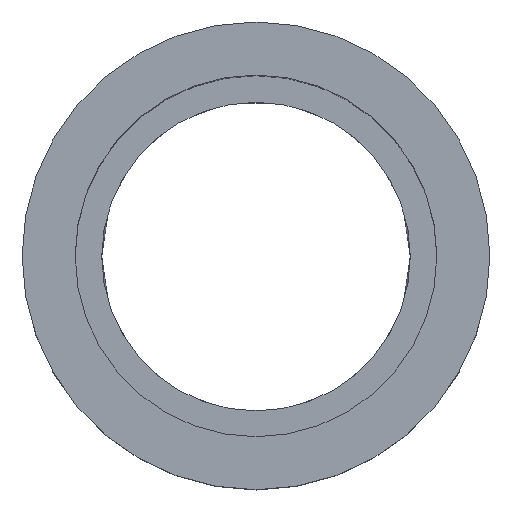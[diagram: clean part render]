
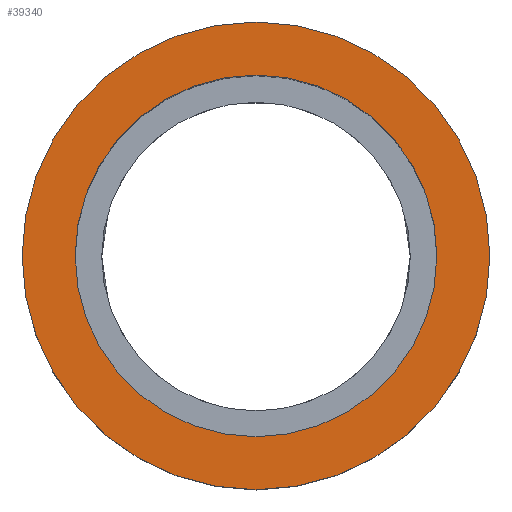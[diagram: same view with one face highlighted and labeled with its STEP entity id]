
A CAD part, top view. The second image highlights one B-rep face of the part: STEP entity #39340.
In plain terms, the highlighted planar face has unit normal (0, 0, 1) as drawn and (-1, 0, 0) by its records, which use the part's own axes.
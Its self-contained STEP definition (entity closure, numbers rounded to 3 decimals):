
#38560=CARTESIAN_POINT('',(-58.851,-18.35,
0.));
#38570=VERTEX_POINT('',#38560);
#38600=CARTESIAN_POINT('',(-58.851,-40.,0.));
#38610=DIRECTION('',(1.,0.,0.));
#38620=DIRECTION('',(0.,-1.,0.));
#38630=AXIS2_PLACEMENT_3D('',#38600,#38610,#38620);
#38640=CIRCLE('',#38630,21.65);
#38650=CARTESIAN_POINT('',(-58.851,-61.65,
0.));
#38660=VERTEX_POINT('',#38650);
#38670=EDGE_CURVE('',#38570,#38660,#38640,.T.);
#39050=CARTESIAN_POINT('',(-58.851,-66.575,
0.));
#39060=DIRECTION('',(1.,-0.,0.));
#39070=DIRECTION('',(0.,1.,0.));
#39080=AXIS2_PLACEMENT_3D('',#39050,#39060,#39070);
#39090=PLANE('',#39080);
#39100=EDGE_CURVE('',#38660,#38570,#38640,.T.);
#39110=ORIENTED_EDGE('',*,*,#39100,.T.);
#39120=ORIENTED_EDGE('',*,*,#38670,.T.);
#39130=EDGE_LOOP('',(#39120,#39110));
#39140=FACE_BOUND('',#39130,.T.);
#39150=CARTESIAN_POINT('',(-58.851,-40.,0.));
#39160=DIRECTION('',(1.,0.,0.));
#39170=DIRECTION('',(0.,1.,0.));
#39180=AXIS2_PLACEMENT_3D('',#39150,#39160,#39170);
#39190=CIRCLE('',#39180,28.);
#39200=CARTESIAN_POINT('',(-58.851,-40.,-28.));
#39210=VERTEX_POINT('',#39200);
#39220=CARTESIAN_POINT('',(-58.851,-12.,0.)
);
#39230=VERTEX_POINT('',#39220);
#39240=EDGE_CURVE('',#39210,#39230,#39190,.T.);
#39250=ORIENTED_EDGE('',*,*,#39240,.F.);
#39260=CARTESIAN_POINT('',(-58.851,-68.,0.)
);
#39270=VERTEX_POINT('',#39260);
#39280=EDGE_CURVE('',#39230,#39270,#39190,.T.);
#39290=ORIENTED_EDGE('',*,*,#39280,.F.);
#39300=EDGE_CURVE('',#39270,#39210,#39190,.T.);
#39310=ORIENTED_EDGE('',*,*,#39300,.F.);
#39320=EDGE_LOOP('',(#39310,#39290,#39250));
#39330=FACE_OUTER_BOUND('',#39320,.T.);
#39340=ADVANCED_FACE('',(#39140,#39330),#39090,.F.);
